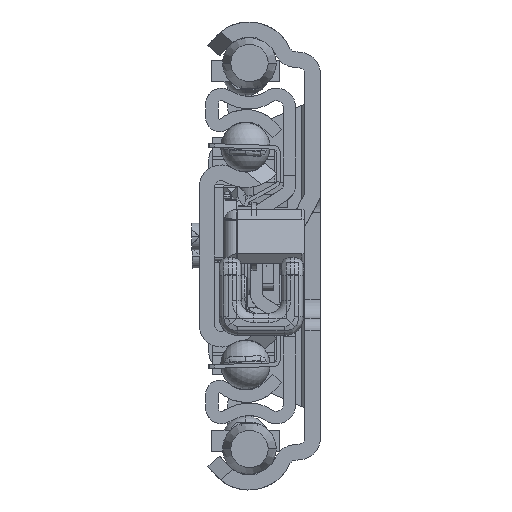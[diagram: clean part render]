
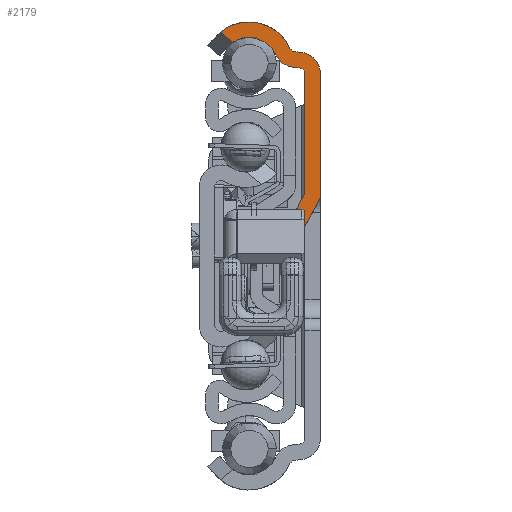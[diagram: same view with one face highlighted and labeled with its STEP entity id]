
A CAD part, left-side view. The second image highlights one B-rep face of the part: STEP entity #2179.
In plain terms, the highlighted planar face has unit normal (-1, 0, 0).
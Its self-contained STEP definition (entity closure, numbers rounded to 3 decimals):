
#1=DIRECTION('',(0.,-0.769,-0.639));
#2=VECTOR('',#1,2.575);
#3=CARTESIAN_POINT('',(0.,16.079,36.021));
#4=LINE('',#3,#2);
#5=CARTESIAN_POINT('',(0.,11.5,30.4));
#6=DIRECTION('',(1.,0.,0.));
#7=DIRECTION('',(0.,0.632,0.775));
#8=AXIS2_PLACEMENT_3D('',#5,#6,#7);
#10=DIRECTION('',(0.,-0.996,-0.087));
#11=VECTOR('',#10,0.904);
#12=CARTESIAN_POINT('',(0.,4.095,32.858));
#13=LINE('',#12,#11);
#14=CARTESIAN_POINT('',(0.,3.5,29.293));
#15=DIRECTION('',(-1.,0.,0.));
#16=DIRECTION('',(0.,-1.,0.));
#17=AXIS2_PLACEMENT_3D('',#14,#15,#16);
#19=CARTESIAN_POINT('',(0.,2.5,9.942));
#20=DIRECTION('',(1.,0.,0.));
#21=DIRECTION('',(0.,-1.,0.));
#22=AXIS2_PLACEMENT_3D('',#19,#20,#21);
#24=DIRECTION('',(0.,-1.,0.));
#25=VECTOR('',#24,2.78);
#26=CARTESIAN_POINT('',(0.,6.177,3.04));
#27=LINE('',#26,#25);
#28=CARTESIAN_POINT('',(0.,0.5,1.099));
#29=DIRECTION('',(-1.,0.,0.));
#30=DIRECTION('',(0.,0.879,0.477));
#31=AXIS2_PLACEMENT_3D('',#28,#29,#30);
#33=DIRECTION('',(0.,0.477,-0.879));
#34=VECTOR('',#33,6.873);
#35=CARTESIAN_POINT('',(0.,2.5,10.));
#36=LINE('',#35,#34);
#37=DIRECTION('',(0.,0.,1.));
#38=VECTOR('',#37,19.293);
#39=CARTESIAN_POINT('',(0.,2.5,10.));
#40=LINE('',#39,#38);
#41=DIRECTION('',(0.,0.996,0.087));
#42=VECTOR('',#41,0.904);
#43=CARTESIAN_POINT('',(0.,3.413,30.289));
#44=LINE('',#43,#42);
#45=CARTESIAN_POINT('',(0.,4.008,33.854));
#46=DIRECTION('',(-1.,0.,0.));
#47=DIRECTION('',(0.,0.908,-0.419));
#48=AXIS2_PLACEMENT_3D('',#45,#46,#47);
#50=CARTESIAN_POINT('',(0.,11.5,30.4));
#51=DIRECTION('',(-1.,0.,0.));
#52=DIRECTION('',(0.,-0.908,0.419));
#53=AXIS2_PLACEMENT_3D('',#50,#51,#52);
#99=CARTESIAN_POINT('',(0.,14.098,34.377));
#148=CARTESIAN_POINT('',(0.,3.5,29.293));
#149=DIRECTION('',(1.,0.,0.));
#150=DIRECTION('',(0.,-0.087,0.996));
#151=AXIS2_PLACEMENT_3D('',#148,#149,#150);
#576=DIRECTION('',(0.,0.,1.));
#577=VECTOR('',#576,19.351);
#578=CARTESIAN_POINT('',(0.,0.,9.942));
#579=LINE('',#578,#577);
#877=CARTESIAN_POINT('',(0.,16.079,36.021));
#1317=CARTESIAN_POINT('',(0.,4.008,33.854));
#1318=DIRECTION('',(1.,0.,0.));
#1319=DIRECTION('',(0.,0.087,-0.996));
#1320=AXIS2_PLACEMENT_3D('',#1317,#1318,#1319);
#1414=CARTESIAN_POINT('',(0.,3.397,3.04));
#1419=DIRECTION('',(0.,-0.477,0.879));
#1420=VECTOR('',#1419,6.495);
#1421=CARTESIAN_POINT('',(0.,3.397,3.04));
#1422=LINE('',#1421,#1420);
#1667=CARTESIAN_POINT('',(0.,3.413,30.289));
#1668=CARTESIAN_POINT('',(0.,2.5,29.293));
#1669=VERTEX_POINT('',#1667);
#1670=VERTEX_POINT('',#1668);
#1671=CARTESIAN_POINT('',(0.,4.095,32.858));
#1672=CARTESIAN_POINT('',(0.,4.916,33.436));
#1673=VERTEX_POINT('',#1671);
#1674=VERTEX_POINT('',#1672);
#1683=CARTESIAN_POINT('',(0.,7.186,32.389));
#1684=CARTESIAN_POINT('',(0.,4.313,30.368));
#1685=VERTEX_POINT('',#1683);
#1686=VERTEX_POINT('',#1684);
#1687=CARTESIAN_POINT('',(0.,0.,29.293));
#1688=CARTESIAN_POINT('',(0.,3.195,32.78));
#1689=VERTEX_POINT('',#1687);
#1690=VERTEX_POINT('',#1688);
#1783=CARTESIAN_POINT('',(0.,2.5,10.));
#1784=VERTEX_POINT('',#1783);
#1845=CARTESIAN_POINT('',(0.,0.,9.942));
#1847=VERTEX_POINT('',#1845);
#1850=CARTESIAN_POINT('',(0.,0.302,8.751));
#1851=VERTEX_POINT('',#1850);
#1854=CARTESIAN_POINT('',(0.,5.775,3.958));
#1855=VERTEX_POINT('',#1854);
#1856=CARTESIAN_POINT('',(0.,6.177,3.04));
#1857=VERTEX_POINT('',#1856);
#1860=VERTEX_POINT('',#1414);
#2122=VERTEX_POINT('',#99);
#2130=VERTEX_POINT('',#877);
#2140=CARTESIAN_POINT('',(0.,0.,0.));
#2141=DIRECTION('',(1.,0.,0.));
#2142=DIRECTION('',(0.,-1.,0.));
#2143=AXIS2_PLACEMENT_3D('',#2140,#2141,#2142);
#2144=PLANE('',#2143);
#2146=ORIENTED_EDGE('',*,*,#2145,.F.);
#2148=ORIENTED_EDGE('',*,*,#2147,.T.);
#2150=ORIENTED_EDGE('',*,*,#2149,.F.);
#2152=ORIENTED_EDGE('',*,*,#2151,.T.);
#2154=ORIENTED_EDGE('',*,*,#2153,.F.);
#2156=ORIENTED_EDGE('',*,*,#2155,.F.);
#2158=ORIENTED_EDGE('',*,*,#2157,.T.);
#2160=ORIENTED_EDGE('',*,*,#2159,.F.);
#2162=ORIENTED_EDGE('',*,*,#2161,.F.);
#2164=ORIENTED_EDGE('',*,*,#2163,.F.);
#2166=ORIENTED_EDGE('',*,*,#2165,.F.);
#2168=ORIENTED_EDGE('',*,*,#2167,.T.);
#2170=ORIENTED_EDGE('',*,*,#2169,.F.);
#2172=ORIENTED_EDGE('',*,*,#2171,.T.);
#2174=ORIENTED_EDGE('',*,*,#2173,.F.);
#2176=ORIENTED_EDGE('',*,*,#2175,.T.);
#2177=EDGE_LOOP('',(#2146,#2148,#2150,#2152,#2154,#2156,#2158,#2160,#2162,#2164,
#2166,#2168,#2170,#2172,#2174,#2176));
#2178=FACE_OUTER_BOUND('',#2177,.F.);
#9=CIRCLE('',#8,7.25);
#18=CIRCLE('',#17,3.5);
#23=CIRCLE('',#22,2.5);
#32=CIRCLE('',#31,6.);
#49=CIRCLE('',#48,3.5);
#54=CIRCLE('',#53,4.75);
#152=CIRCLE('',#151,1.);
#1321=CIRCLE('',#1320,1.);
#2145=EDGE_CURVE('',#2130,#2122,#4,.T.);
#2147=EDGE_CURVE('',#2130,#1674,#9,.T.);
#2149=EDGE_CURVE('',#1673,#1674,#1321,.T.);
#2151=EDGE_CURVE('',#1673,#1690,#13,.T.);
#2153=EDGE_CURVE('',#1689,#1690,#18,.T.);
#2155=EDGE_CURVE('',#1847,#1689,#579,.T.);
#2157=EDGE_CURVE('',#1847,#1851,#23,.T.);
#2159=EDGE_CURVE('',#1860,#1851,#1422,.T.);
#2161=EDGE_CURVE('',#1857,#1860,#27,.T.);
#2163=EDGE_CURVE('',#1855,#1857,#32,.T.);
#2165=EDGE_CURVE('',#1784,#1855,#36,.T.);
#2167=EDGE_CURVE('',#1784,#1670,#40,.T.);
#2169=EDGE_CURVE('',#1669,#1670,#152,.T.);
#2171=EDGE_CURVE('',#1669,#1686,#44,.T.);
#2173=EDGE_CURVE('',#1685,#1686,#49,.T.);
#2175=EDGE_CURVE('',#1685,#2122,#54,.T.);
#2179=ADVANCED_FACE('',(#2178),#2144,.F.);
